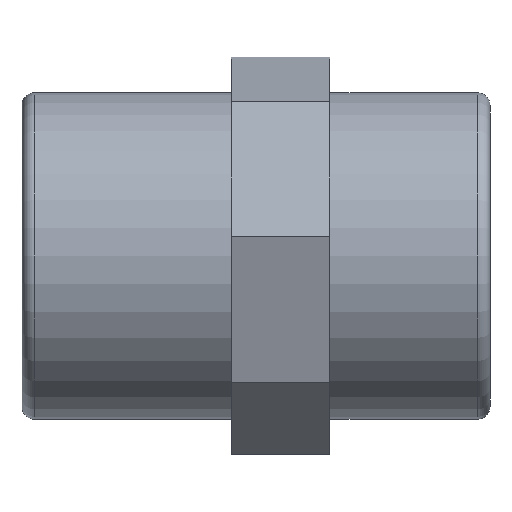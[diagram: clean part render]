
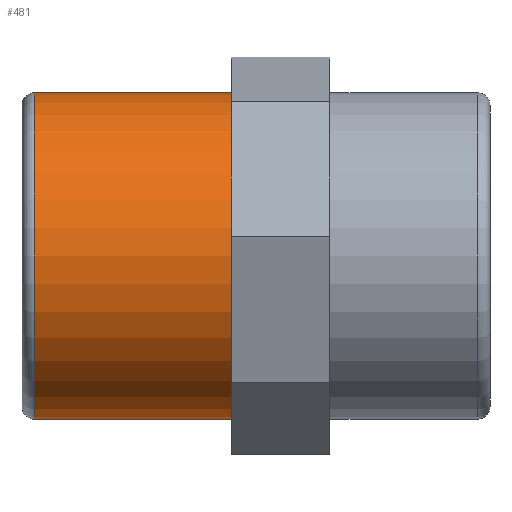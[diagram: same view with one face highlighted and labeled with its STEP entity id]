
A CAD part, front view. The second image highlights one B-rep face of the part: STEP entity #481.
In plain terms, the highlighted cylindrical face has radius 13.25 mm (diameter 26.5 mm), a full revolution.
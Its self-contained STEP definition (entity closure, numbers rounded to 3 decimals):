
#48=CYLINDRICAL_SURFACE('',#524,13.25);
#60=FACE_BOUND('',#145,.T.);
#71=CIRCLE('',#503,13.25);
#78=CIRCLE('',#525,13.25);
#104=FACE_OUTER_BOUND('',#144,.T.);
#144=EDGE_LOOP('',(#388));
#145=EDGE_LOOP('',(#389));
#229=VERTEX_POINT('',#681);
#244=VERTEX_POINT('',#734);
#275=EDGE_CURVE('',#229,#229,#71,.T.);
#298=EDGE_CURVE('',#244,#244,#78,.T.);
#388=ORIENTED_EDGE('',*,*,#275,.T.);
#389=ORIENTED_EDGE('',*,*,#298,.F.);
#481=ADVANCED_FACE('',(#104,#60),#48,.T.);
#503=AXIS2_PLACEMENT_3D('',#682,#559,#560);
#524=AXIS2_PLACEMENT_3D('',#733,#617,#618);
#525=AXIS2_PLACEMENT_3D('',#735,#619,#620);
#559=DIRECTION('center_axis',(-1.,0.,0.));
#560=DIRECTION('ref_axis',(0.,-1.,0.));
#617=DIRECTION('center_axis',(-1.,0.,0.));
#618=DIRECTION('ref_axis',(0.,-1.,0.));
#619=DIRECTION('center_axis',(-1.,0.,0.));
#620=DIRECTION('ref_axis',(0.,1.,0.));
#681=CARTESIAN_POINT('',(17.,13.25,0.));
#682=CARTESIAN_POINT('Origin',(17.,0.,0.));
#733=CARTESIAN_POINT('Origin',(19.,0.,0.));
#734=CARTESIAN_POINT('',(1.,-13.25,0.));
#735=CARTESIAN_POINT('Origin',(1.,0.,0.));
